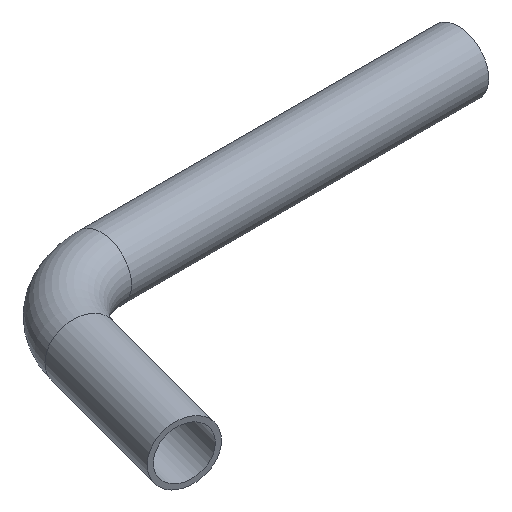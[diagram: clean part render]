
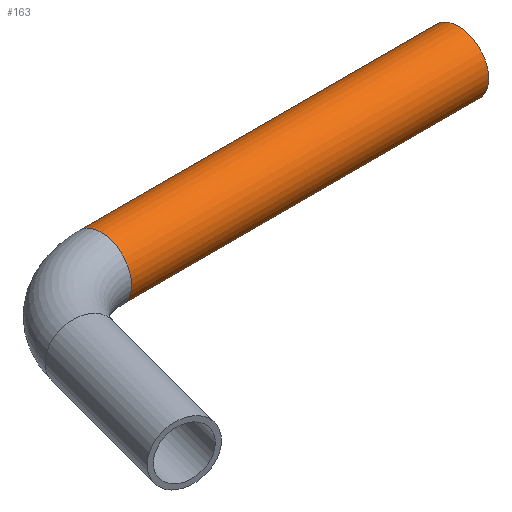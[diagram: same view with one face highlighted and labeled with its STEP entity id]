
A CAD part, isometric view. The second image highlights one B-rep face of the part: STEP entity #163.
In plain terms, the highlighted cylindrical face has radius 9 mm (diameter 18 mm), a full revolution.
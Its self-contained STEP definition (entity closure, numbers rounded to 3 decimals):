
#136=CARTESIAN_POINT('',(0.,25.,0.0));
#137=DIRECTION('',(1.0,0.,0.0));
#138=DIRECTION('',(0.0,-1.0,0.0));
#139=AXIS2_PLACEMENT_3D('',#136,#137,#138);
#140=CYLINDRICAL_SURFACE('',#139,9.);
#141=CARTESIAN_POINT('',(105.817,34.,0.));
#142=VERTEX_POINT('',#141);
#143=CARTESIAN_POINT('',(105.817,25.,0.0));
#144=DIRECTION('',(-1.0,0.0,0.0));
#145=DIRECTION('',(0.0,-1.0,0.0));
#146=AXIS2_PLACEMENT_3D('',#143,#144,#145);
#147=CIRCLE('',#146,9.);
#148=EDGE_CURVE('',#142,#142,#147,.T.);
#149=ORIENTED_EDGE('',*,*,#148,.T.);
#150=EDGE_LOOP('',(#149));
#151=FACE_OUTER_BOUND('',#150,.T.);
#152=CARTESIAN_POINT('',(0.,34.,0.));
#153=VERTEX_POINT('',#152);
#154=CARTESIAN_POINT('',(0.,25.,0.0));
#155=DIRECTION('',(-1.0,0.0,0.0));
#156=DIRECTION('',(0.0,-1.0,0.0));
#157=AXIS2_PLACEMENT_3D('',#154,#155,#156);
#158=CIRCLE('',#157,9.);
#159=EDGE_CURVE('',#153,#153,#158,.T.);
#160=ORIENTED_EDGE('',*,*,#159,.F.);
#161=EDGE_LOOP('',(#160));
#162=FACE_BOUND('',#161,.T.);
#163=ADVANCED_FACE('',(#151,#162),#140,.T.);
